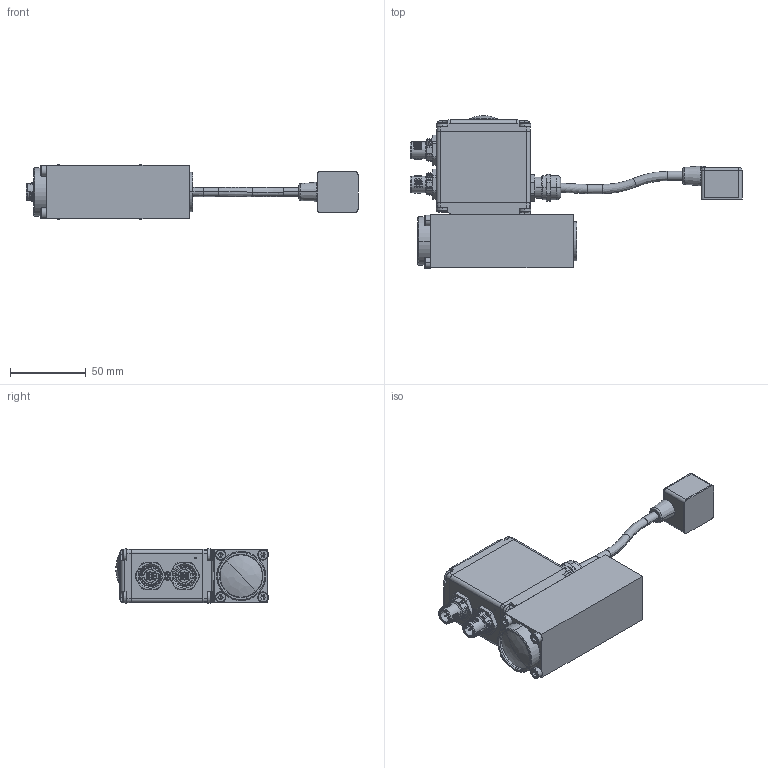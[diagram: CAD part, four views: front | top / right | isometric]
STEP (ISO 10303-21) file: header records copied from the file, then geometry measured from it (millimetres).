
FILE_DESCRIPTION (( 'STEP AP203' ), '1' );
FILE_NAME ('PI35EV-P2-24C_100mm .step', '2013-07-29T06:18:14', ( 'Wandfluh AG' ), ( 'Wandfluh AG' ), 'SwSTEP 2.0', 'SolidWorks 2012', '' );
FILE_SCHEMA (( 'CONFIG_CONTROL_DESIGN' ));
Products named in the file (1): PI35EV-P2-24C_100mm 
Bounding box: 219.2 x 100.79 x 35.9 mm (x, y, z)
Volume: 210701.9 mm3; surface area: 85167.4 mm2
Topology: 35 solids, 35 shells, 3588 faces, 9580 edges, 6157 vertices
Faces by surface type: plane 1679, cylinder 1175, cone 255, torus 241, bspline 206, sphere 32
Entity records: 139033 total; most frequent: CARTESIAN_POINT 51024, ORIENTED_EDGE 19048, DIRECTION 17416, EDGE_CURVE 9524, VERTEX_POINT 6157, AXIS2_PLACEMENT_3D 5840, LINE 5736, VECTOR 5736
